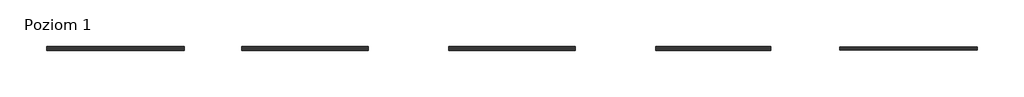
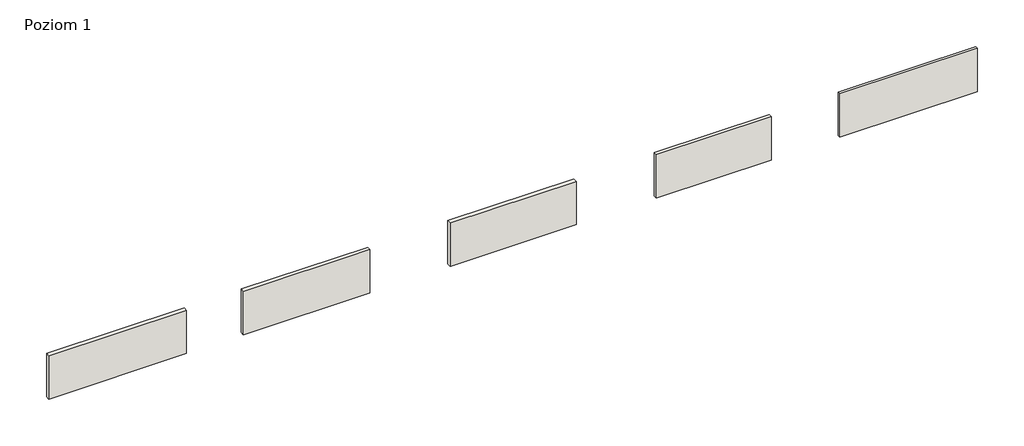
# One storey: 5 walls.
"""IFC4 building model written with IfcOpenShell, lengths in millimetres."""

from ifc_helpers import new_model, si_unit, origin, origin_with_axes, place, context, project, spatial, polyline, outline, extrude, element, save

model = new_model("IFC4")

# Units and contexts
model_context = context("Model", 3, world=origin())
ifc_project = project(units=[si_unit("LENGTHUNIT", "METRE", prefix="MILLI")], contexts=[model_context])

# Site, building, storey
site = spatial("IfcSite", under=ifc_project)
building = spatial("IfcBuilding", under=site)
storey = spatial("IfcBuildingStorey", under=building, Name="Poziom 1", Elevation=0.0)

# Walls
placement = place(None, origin())
element("IfcWall", 1, ObjectType="ISOVER.FE.FASOTERM35.BETKOM", at=placement, inside=storey, context=model_context, shape_type="SweptSolid", body=[
    extrude(outline(polyline([(-4403.1897353, -197.5106365), (-16403.1897353, -197.5106365), (-16403.1897353, 123.4893635), (-4403.1897353, 123.4893635), (-4403.1897353, -197.5106365)])), origin_with_axes(), (0.0, 0.0, 1.0), 4000.0),
])
element("IfcWall", 2, ObjectType="ISOVER.FE.FASOTERM35.BETON", at=placement, inside=storey, context=model_context, shape_type="SweptSolid", body=[
    extrude(outline(polyline([(11574.3183088, -197.5106365), (574.3183088, -197.5106365), (574.3183088, 123.4893635), (11574.3183088, 123.4893635), (11574.3183088, -197.5106365)])), origin_with_axes(), (0.0, 0.0, 1.0), 4000.0),
])
element("IfcWall", 3, ObjectType="ISOVER.FE.FASOTERM35.CERAM", at=placement, inside=storey, context=model_context, shape_type="SweptSolid", body=[
    extrude(outline(polyline([(29574.3183088, -221.5106365), (18574.3183088, -221.5106365), (18574.3183088, 147.4893635), (29574.3183088, 147.4893635), (29574.3183088, -221.5106365)])), origin_with_axes(), (0.0, 0.0, 1.0), 4000.0),
])
element("IfcWall", 4, ObjectType="ISOVER.FE.FASOTERM35.SILIKAT", at=placement, inside=storey, context=model_context, shape_type="SweptSolid", body=[
    extrude(outline(polyline([(46574.3183088, -197.5106365), (36574.3183088, -197.5106365), (36574.3183088, 123.4893635), (46574.3183088, 123.4893635), (46574.3183088, -197.5106365)])), origin_with_axes(), (0.0, 0.0, 1.0), 4000.0),
])
element("IfcWall", 5, ObjectType="ISOVER.FE.FASOTERM35.ŻELBET", at=placement, inside=storey, context=model_context, shape_type="SweptSolid", body=[
    extrude(outline(polyline([(64574.3183088, -167.5106365), (52574.3183088, -167.5106365), (52574.3183088, 93.4893635), (64574.3183088, 93.4893635), (64574.3183088, -167.5106365)])), origin_with_axes(), (0.0, 0.0, 1.0), 4000.0),
])

save(model, "model.ifc")
